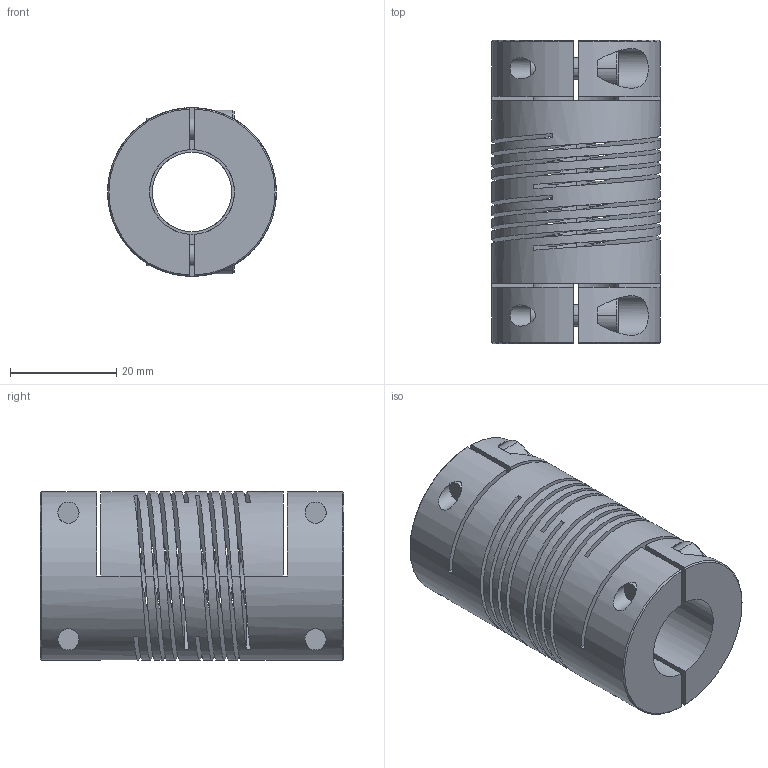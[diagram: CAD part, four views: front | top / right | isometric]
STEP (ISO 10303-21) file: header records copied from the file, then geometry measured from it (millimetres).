
FILE_DESCRIPTION((''),'2;1');
FILE_NAME('703_32','2006-12-06T',('Gary Melling'),(''),'PRO/ENGINEER BY PARAMETRIC TECHNOLOGY CORPORATION, 2006240','PRO/ENGINEER BY PARAMETRIC TECHNOLOGY CORPORATION, 2006240','');
FILE_SCHEMA(('CONFIG_CONTROL_DESIGN'));
Length unit declared in the file: millimetre
Products named in the file (1): 703_32
Bounding box: 31.8 x 57.2 x 31.8 mm (x, y, z)
Volume: 29087.9 mm3; surface area: 21558.1 mm2
Topology: 1 solids, 1 shells, 164 faces, 450 edges, 288 vertices
Faces by surface type: plane 82, cylinder 58, bspline 12, cone 12
Entity records: 7509 total; most frequent: CARTESIAN_POINT 3439, ORIENTED_EDGE 900, DIRECTION 742, EDGE_CURVE 450, VERTEX_POINT 288, AXIS2_PLACEMENT_3D 248, VECTOR 246, LINE 246
